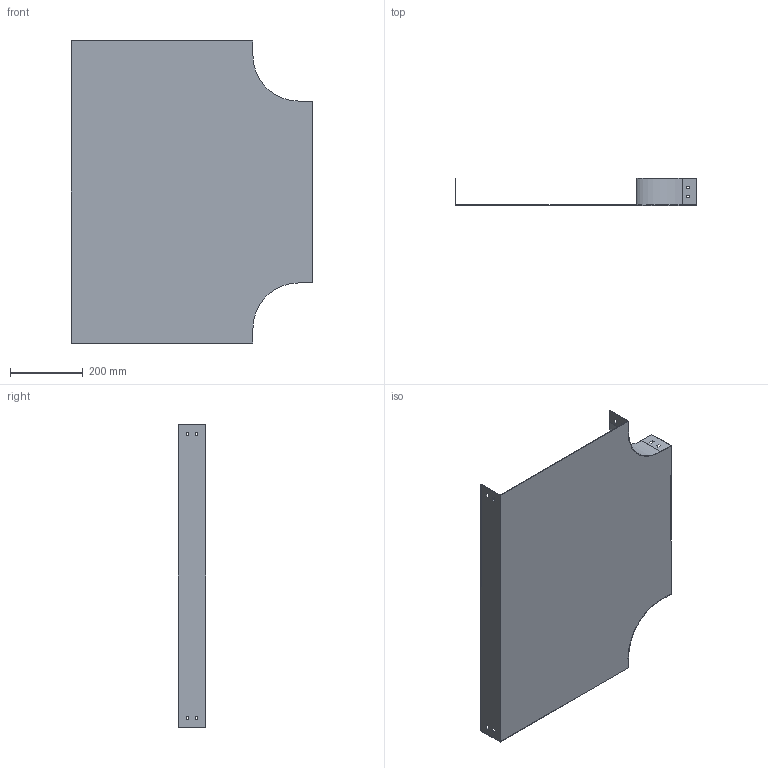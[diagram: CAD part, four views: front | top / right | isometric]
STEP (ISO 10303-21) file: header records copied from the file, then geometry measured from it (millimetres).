
FILE_DESCRIPTION (( 'STEP AP214' ), '1' );
FILE_NAME ('PT_507.step', '2025-07-16T09:24:17', ( '' ), ( '' ), 'SwSTEP 2.0', 'SolidWorks 2023', '' );
FILE_SCHEMA (( 'AUTOMOTIVE_DESIGN' ));
Length unit declared in the file: millimetre
Products named in the file (1): PT_507
Bounding box: 665 x 75 x 830 mm (x, y, z)
Volume: 907751.8 mm3; surface area: 1215933.3 mm2
Topology: 1 solids, 1 shells, 70 faces, 204 edges, 136 vertices
Faces by surface type: plane 66, cylinder 4
Entity records: 2347 total; most frequent: CARTESIAN_POINT 411, ORIENTED_EDGE 408, DIRECTION 354, EDGE_CURVE 204, VECTOR 196, LINE 196, VERTEX_POINT 136, EDGE_LOOP 94
